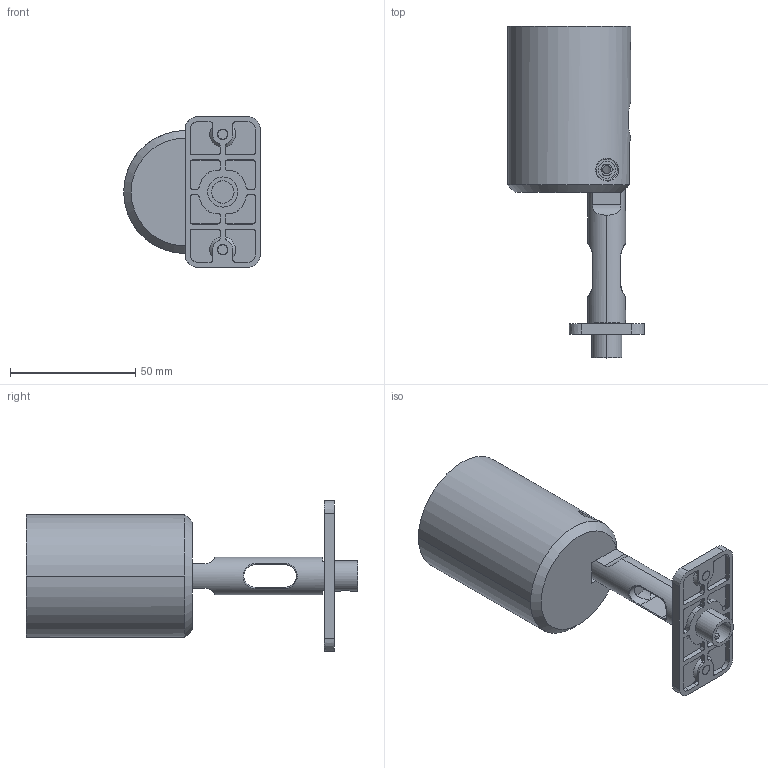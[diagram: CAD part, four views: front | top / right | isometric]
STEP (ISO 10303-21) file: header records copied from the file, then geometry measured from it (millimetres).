
FILE_DESCRIPTION((''),'2;1');
FILE_NAME('GARDEN_SW0002','2025-05-23T09:06:03',('elena.baldelli'),(''),'CREO PARAMETRIC BY PTC INC, 2020354','CREO PARAMETRIC BY PTC INC, 2020354','');
FILE_SCHEMA(('CONFIG_CONTROL_DESIGN'));
Length unit declared in the file: millimetre
Products named in the file (1): GARDEN_SW0002
Bounding box: 54.5 x 132.3 x 60 mm (x, y, z)
Surface area: 33388.1 mm2 (no closed solid volume)
Topology: 0 solids, 19 shells, 183 faces, 782 edges, 582 vertices
Faces by surface type: plane 108, cylinder 34, cone 31, bspline 8, revolution 2
Entity records: 11244 total; most frequent: CARTESIAN_POINT 5092, DIRECTION 1181, ORIENTED_EDGE 1143, EDGE_CURVE 782, VERTEX_POINT 582, VECTOR 439, LINE 439, AXIS2_PLACEMENT_3D 370
